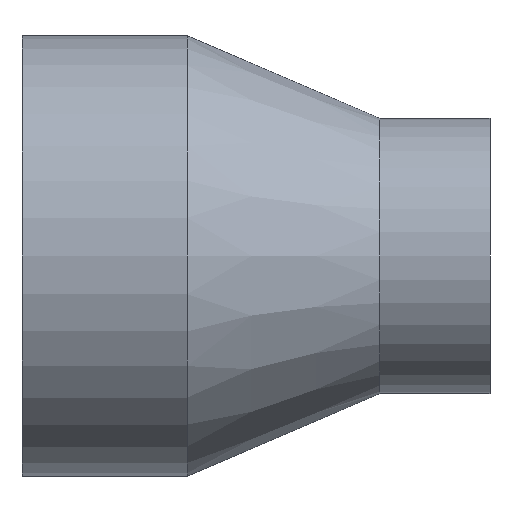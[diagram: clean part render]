
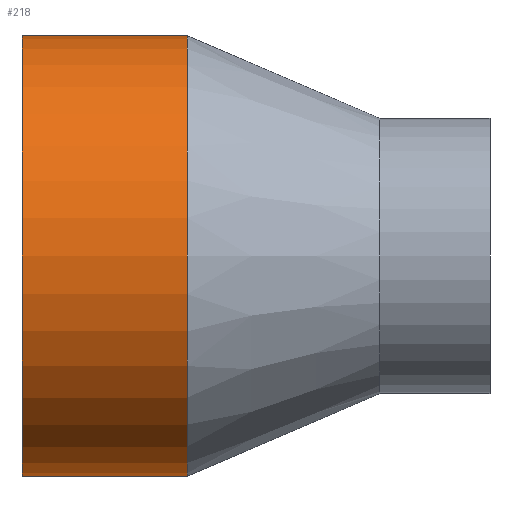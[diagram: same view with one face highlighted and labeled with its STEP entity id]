
A CAD part, front view. The second image highlights one B-rep face of the part: STEP entity #218.
In plain terms, the highlighted cylindrical face has radius 50.8 mm (diameter 101.6 mm), a partial arc.
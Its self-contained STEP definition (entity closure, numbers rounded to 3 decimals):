
#1 = DIRECTION ( 'NONE',  ( -1., 0., 0. ) ) ;
#7 = CARTESIAN_POINT ( 'NONE',  ( 0., 0., -50.8 ) ) ;
#21 = FACE_OUTER_BOUND ( 'NONE', #237, .T. ) ;
#22 = LINE ( 'NONE', #80, #116 ) ;
#33 = DIRECTION ( 'NONE',  ( 0., 0., 1. ) ) ;
#38 = CARTESIAN_POINT ( 'NONE',  ( 38.1, 0., -50.8 ) ) ;
#64 = DIRECTION ( 'NONE',  ( -1., 0., 0. ) ) ;
#77 = ORIENTED_EDGE ( 'NONE', *, *, #193, .F. ) ;
#80 = CARTESIAN_POINT ( 'NONE',  ( -63.937, 0., 50.8 ) ) ;
#83 = ORIENTED_EDGE ( 'NONE', *, *, #337, .T. ) ;
#88 = VERTEX_POINT ( 'NONE', #134 ) ;
#92 = CARTESIAN_POINT ( 'NONE',  ( -63.937, 0., -50.8 ) ) ;
#96 = DIRECTION ( 'NONE',  ( 0., 0., 1. ) ) ;
#98 = DIRECTION ( 'NONE',  ( -1., 0., 0. ) ) ;
#116 = VECTOR ( 'NONE', #286, 1000. ) ;
#128 = CARTESIAN_POINT ( 'NONE',  ( -63.937, 0., 0. ) ) ;
#129 = CYLINDRICAL_SURFACE ( 'NONE', #272, 50.8 ) ;
#130 = EDGE_CURVE ( 'NONE', #340, #164, #390, .T. ) ;
#134 = CARTESIAN_POINT ( 'NONE',  ( 0., 0., 50.8 ) ) ;
#144 = VECTOR ( 'NONE', #209, 1000. ) ;
#148 = EDGE_CURVE ( 'NONE', #340, #402, #296, .T. ) ;
#164 = VERTEX_POINT ( 'NONE', #7 ) ;
#173 = CARTESIAN_POINT ( 'NONE',  ( 38.1, 0., 50.8 ) ) ;
#193 = EDGE_CURVE ( 'NONE', #164, #88, #367, .T. ) ;
#206 = CARTESIAN_POINT ( 'NONE',  ( 38.1, 0., 0. ) ) ;
#209 = DIRECTION ( 'NONE',  ( -1., 0., 0. ) ) ;
#218 = ADVANCED_FACE ( 'NONE', ( #21 ), #129, .T. ) ;
#237 = EDGE_LOOP ( 'NONE', ( #392, #275, #83, #77 ) ) ;
#272 = AXIS2_PLACEMENT_3D ( 'NONE', #128, #1, #345 ) ;
#275 = ORIENTED_EDGE ( 'NONE', *, *, #148, .T. ) ;
#282 = CARTESIAN_POINT ( 'NONE',  ( 0., 0., 0. ) ) ;
#286 = DIRECTION ( 'NONE',  ( -1., 0., 0. ) ) ;
#296 = CIRCLE ( 'NONE', #413, 50.8 ) ;
#337 = EDGE_CURVE ( 'NONE', #402, #88, #22, .T. ) ;
#340 = VERTEX_POINT ( 'NONE', #38 ) ;
#345 = DIRECTION ( 'NONE',  ( 0., 0., 1. ) ) ;
#367 = CIRCLE ( 'NONE', #382, 50.8 ) ;
#382 = AXIS2_PLACEMENT_3D ( 'NONE', #282, #98, #33 ) ;
#390 = LINE ( 'NONE', #92, #144 ) ;
#392 = ORIENTED_EDGE ( 'NONE', *, *, #130, .F. ) ;
#402 = VERTEX_POINT ( 'NONE', #173 ) ;
#413 = AXIS2_PLACEMENT_3D ( 'NONE', #206, #64, #96 ) ;
